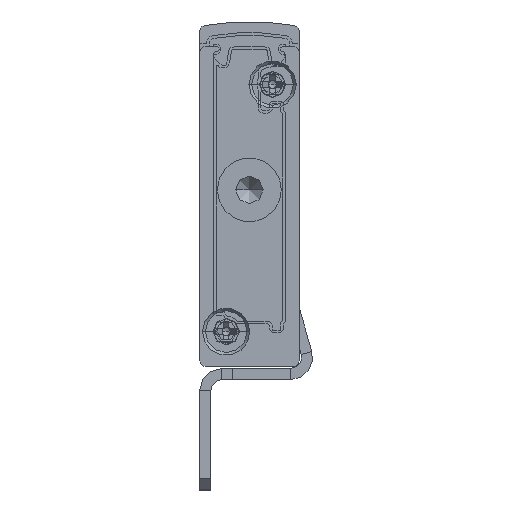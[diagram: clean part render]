
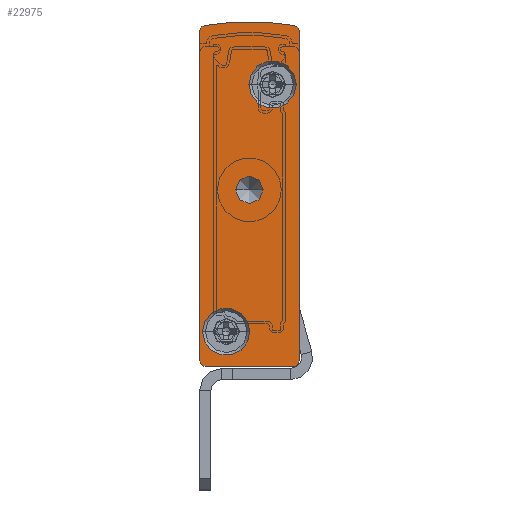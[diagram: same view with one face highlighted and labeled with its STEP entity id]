
A CAD part, front view. The second image highlights one B-rep face of the part: STEP entity #22975.
In plain terms, the highlighted planar face has unit normal (0, -1, 0).
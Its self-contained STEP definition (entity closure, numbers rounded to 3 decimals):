
#132 = VERTEX_POINT ( 'NONE', #21649 ) ;
#720 = VECTOR ( 'NONE', #23392, 1000. ) ;
#1022 = CIRCLE ( 'NONE', #27500, 0.5 ) ;
#1134 = CIRCLE ( 'NONE', #24811, 2.15 ) ;
#2129 = LINE ( 'NONE', #26302, #720 ) ;
#2211 = EDGE_CURVE ( 'NONE', #132, #8752, #6116, .T. ) ;
#2265 = ORIENTED_EDGE ( 'NONE', *, *, #27444, .F. ) ;
#2599 = CIRCLE ( 'NONE', #6572, 2.15 ) ;
#3163 = ORIENTED_EDGE ( 'NONE', *, *, #36997, .F. ) ;
#3201 = DIRECTION ( 'NONE',  ( 0., 1., 0. ) ) ;
#3420 = VERTEX_POINT ( 'NONE', #7451 ) ;
#4333 = DIRECTION ( 'NONE',  ( 0., 1., 0. ) ) ;
#5256 = EDGE_LOOP ( 'NONE', ( #3163, #38874 ) ) ;
#5431 = VERTEX_POINT ( 'NONE', #17715 ) ;
#6116 = LINE ( 'NONE', #7259, #20972 ) ;
#6117 = DIRECTION ( 'NONE',  ( 0., -1., 0. ) ) ;
#6565 = CARTESIAN_POINT ( 'NONE',  ( -4.5, -2.5, 16. ) ) ;
#6572 = AXIS2_PLACEMENT_3D ( 'NONE', #22706, #25849, #37949 ) ;
#6925 = EDGE_CURVE ( 'NONE', #5431, #13040, #23563, .T. ) ;
#7259 = CARTESIAN_POINT ( 'NONE',  ( -8.5, -2.5, 0. ) ) ;
#7374 = DIRECTION ( 'NONE',  ( 0., 1., 0. ) ) ;
#7451 = CARTESIAN_POINT ( 'NONE',  ( -8.75, -2.5, 3.15 ) ) ;
#7817 = VECTOR ( 'NONE', #19695, 1000. ) ;
#7854 = CIRCLE ( 'NONE', #23585, 0.5 ) ;
#7926 = ORIENTED_EDGE ( 'NONE', *, *, #9345, .F. ) ;
#8088 = DIRECTION ( 'NONE',  ( 1., 0., 0. ) ) ;
#8170 = DIRECTION ( 'NONE',  ( -1., 0., 0. ) ) ;
#8428 = CARTESIAN_POINT ( 'NONE',  ( -4.55, -2.5, 25.55 ) ) ;
#8752 = VERTEX_POINT ( 'NONE', #19816 ) ;
#9057 = EDGE_CURVE ( 'NONE', #15988, #11552, #24615, .T. ) ;
#9345 = EDGE_CURVE ( 'NONE', #23113, #35770, #7854, .T. ) ;
#9776 = CARTESIAN_POINT ( 'NONE',  ( -2.4, -2.5, 25.55 ) ) ;
#10322 = CARTESIAN_POINT ( 'NONE',  ( -8.5, -2.5, 30.402 ) ) ;
#10497 = CARTESIAN_POINT ( 'NONE',  ( -4.5, -2.5, 16. ) ) ;
#10714 = EDGE_LOOP ( 'NONE', ( #14036, #11407 ) ) ;
#10790 = ORIENTED_EDGE ( 'NONE', *, *, #31729, .F. ) ;
#10904 = CARTESIAN_POINT ( 'NONE',  ( 0., -2.5, 30.402 ) ) ;
#11131 = CARTESIAN_POINT ( 'NONE',  ( -0.408, -2.5, 30.893 ) ) ;
#11407 = ORIENTED_EDGE ( 'NONE', *, *, #23336, .F. ) ;
#11552 = VERTEX_POINT ( 'NONE', #23332 ) ;
#11938 = CIRCLE ( 'NONE', #27370, 23.658 ) ;
#12266 = FACE_BOUND ( 'NONE', #5256, .T. ) ;
#12992 = DIRECTION ( 'NONE',  ( 0., 1., 0. ) ) ;
#13040 = VERTEX_POINT ( 'NONE', #37254 ) ;
#13219 = AXIS2_PLACEMENT_3D ( 'NONE', #10322, #4333, #25895 ) ;
#13375 = DIRECTION ( 'NONE',  ( -1., 0., 0. ) ) ;
#13417 = PLANE ( 'NONE',  #13219 ) ;
#13498 = DIRECTION ( 'NONE',  ( 0., 1., 0. ) ) ;
#13591 = DIRECTION ( 'NONE',  ( 0., 1., 0. ) ) ;
#13794 = CIRCLE ( 'NONE', #33810, 1.25 ) ;
#13963 = EDGE_CURVE ( 'NONE', #35770, #25927, #21693, .T. ) ;
#14036 = ORIENTED_EDGE ( 'NONE', *, *, #23522, .F. ) ;
#14560 = DIRECTION ( 'NONE',  ( 0., 1., 0. ) ) ;
#14744 = CARTESIAN_POINT ( 'NONE',  ( -9., -2.5, 0.5 ) ) ;
#15130 = FACE_BOUND ( 'NONE', #10714, .T. ) ;
#15229 = CARTESIAN_POINT ( 'NONE',  ( -6.6, -2.5, 3.15 ) ) ;
#15448 = EDGE_CURVE ( 'NONE', #11552, #15988, #13794, .T. ) ;
#15761 = DIRECTION ( 'NONE',  ( 1., 0., 0. ) ) ;
#15918 = CIRCLE ( 'NONE', #28842, 2.15 ) ;
#15988 = VERTEX_POINT ( 'NONE', #19936 ) ;
#16142 = EDGE_CURVE ( 'NONE', #8752, #24034, #33355, .T. ) ;
#16448 = CARTESIAN_POINT ( 'NONE',  ( 0., -2.5, 0.5 ) ) ;
#16474 = DIRECTION ( 'NONE',  ( -1., 0., 0. ) ) ;
#16995 = FACE_OUTER_BOUND ( 'NONE', #31179, .T. ) ;
#17041 = ORIENTED_EDGE ( 'NONE', *, *, #9057, .T. ) ;
#17715 = CARTESIAN_POINT ( 'NONE',  ( -9., -2.5, 30.402 ) ) ;
#17875 = DIRECTION ( 'NONE',  ( -1., 0., 0. ) ) ;
#18296 = CARTESIAN_POINT ( 'NONE',  ( -0.5, -2.5, 30.402 ) ) ;
#18557 = AXIS2_PLACEMENT_3D ( 'NONE', #9776, #21519, #34093 ) ;
#19200 = ORIENTED_EDGE ( 'NONE', *, *, #15448, .T. ) ;
#19695 = DIRECTION ( 'NONE',  ( 0., 0., -1. ) ) ;
#19816 = CARTESIAN_POINT ( 'NONE',  ( -8.5, -2.5, 0. ) ) ;
#19936 = CARTESIAN_POINT ( 'NONE',  ( -3.25, -2.5, 16. ) ) ;
#20133 = VERTEX_POINT ( 'NONE', #38599 ) ;
#20137 = EDGE_CURVE ( 'NONE', #25927, #132, #1022, .T. ) ;
#20248 = DIRECTION ( 'NONE',  ( 0., -1., 0. ) ) ;
#20972 = VECTOR ( 'NONE', #8170, 1000. ) ;
#21519 = DIRECTION ( 'NONE',  ( 0., -1., 0. ) ) ;
#21649 = CARTESIAN_POINT ( 'NONE',  ( -0.5, -2.5, 0. ) ) ;
#21693 = LINE ( 'NONE', #30877, #7817 ) ;
#21702 = CIRCLE ( 'NONE', #18557, 2.15 ) ;
#22049 = ORIENTED_EDGE ( 'NONE', *, *, #2211, .F. ) ;
#22214 = DIRECTION ( 'NONE',  ( 0., 1., 0. ) ) ;
#22346 = CARTESIAN_POINT ( 'NONE',  ( -8.5, -2.5, 30.402 ) ) ;
#22706 = CARTESIAN_POINT ( 'NONE',  ( -2.4, -2.5, 25.55 ) ) ;
#22882 = ORIENTED_EDGE ( 'NONE', *, *, #16142, .F. ) ;
#22975 = ADVANCED_FACE ( 'NONE', ( #15130, #12266, #16995, #31260 ), #13417, .F. ) ;
#23043 = VERTEX_POINT ( 'NONE', #8428 ) ;
#23113 = VERTEX_POINT ( 'NONE', #11131 ) ;
#23290 = ORIENTED_EDGE ( 'NONE', *, *, #13963, .F. ) ;
#23332 = CARTESIAN_POINT ( 'NONE',  ( -5.75, -2.5, 16. ) ) ;
#23336 = EDGE_CURVE ( 'NONE', #23043, #33188, #21702, .T. ) ;
#23392 = DIRECTION ( 'NONE',  ( 0., 0., 1. ) ) ;
#23461 = AXIS2_PLACEMENT_3D ( 'NONE', #22346, #22214, #25649 ) ;
#23522 = EDGE_CURVE ( 'NONE', #33188, #23043, #2599, .T. ) ;
#23563 = CIRCLE ( 'NONE', #23461, 0.5 ) ;
#23585 = AXIS2_PLACEMENT_3D ( 'NONE', #18296, #3201, #39296 ) ;
#23720 = AXIS2_PLACEMENT_3D ( 'NONE', #36892, #13498, #13375 ) ;
#24034 = VERTEX_POINT ( 'NONE', #14744 ) ;
#24337 = AXIS2_PLACEMENT_3D ( 'NONE', #6565, #12992, #34361 ) ;
#24615 = CIRCLE ( 'NONE', #24337, 1.25 ) ;
#24810 = EDGE_CURVE ( 'NONE', #3420, #20133, #1134, .T. ) ;
#24811 = AXIS2_PLACEMENT_3D ( 'NONE', #15229, #6117, #15761 ) ;
#25649 = DIRECTION ( 'NONE',  ( -1., 0., 0. ) ) ;
#25849 = DIRECTION ( 'NONE',  ( 0., -1., 0. ) ) ;
#25895 = DIRECTION ( 'NONE',  ( -1., 0., 0. ) ) ;
#25927 = VERTEX_POINT ( 'NONE', #16448 ) ;
#26062 = CARTESIAN_POINT ( 'NONE',  ( -0.25, -2.5, 25.55 ) ) ;
#26302 = CARTESIAN_POINT ( 'NONE',  ( -9., -2.5, 30.402 ) ) ;
#26485 = CARTESIAN_POINT ( 'NONE',  ( -6.6, -2.5, 3.15 ) ) ;
#27370 = AXIS2_PLACEMENT_3D ( 'NONE', #34516, #7374, #16474 ) ;
#27444 = EDGE_CURVE ( 'NONE', #24034, #5431, #2129, .T. ) ;
#27500 = AXIS2_PLACEMENT_3D ( 'NONE', #29723, #14560, #17875 ) ;
#28842 = AXIS2_PLACEMENT_3D ( 'NONE', #26485, #20248, #8088 ) ;
#29723 = CARTESIAN_POINT ( 'NONE',  ( -0.5, -2.5, 0.5 ) ) ;
#30877 = CARTESIAN_POINT ( 'NONE',  ( 0., -2.5, 30.402 ) ) ;
#31179 = EDGE_LOOP ( 'NONE', ( #35992, #2265, #22882, #22049, #34807, #23290, #7926, #10790 ) ) ;
#31183 = EDGE_LOOP ( 'NONE', ( #19200, #17041 ) ) ;
#31260 = FACE_BOUND ( 'NONE', #31183, .T. ) ;
#31729 = EDGE_CURVE ( 'NONE', #13040, #23113, #11938, .T. ) ;
#32184 = DIRECTION ( 'NONE',  ( -1., 0., 0. ) ) ;
#33188 = VERTEX_POINT ( 'NONE', #26062 ) ;
#33355 = CIRCLE ( 'NONE', #23720, 0.5 ) ;
#33810 = AXIS2_PLACEMENT_3D ( 'NONE', #10497, #13591, #32184 ) ;
#34093 = DIRECTION ( 'NONE',  ( 1., 0., 0. ) ) ;
#34361 = DIRECTION ( 'NONE',  ( -1., 0., 0. ) ) ;
#34516 = CARTESIAN_POINT ( 'NONE',  ( -4.5, -2.5, 7.592 ) ) ;
#34807 = ORIENTED_EDGE ( 'NONE', *, *, #20137, .F. ) ;
#35770 = VERTEX_POINT ( 'NONE', #10904 ) ;
#35992 = ORIENTED_EDGE ( 'NONE', *, *, #6925, .F. ) ;
#36892 = CARTESIAN_POINT ( 'NONE',  ( -8.5, -2.5, 0.5 ) ) ;
#36997 = EDGE_CURVE ( 'NONE', #20133, #3420, #15918, .T. ) ;
#37254 = CARTESIAN_POINT ( 'NONE',  ( -8.592, -2.5, 30.893 ) ) ;
#37949 = DIRECTION ( 'NONE',  ( 1., 0., 0. ) ) ;
#38599 = CARTESIAN_POINT ( 'NONE',  ( -4.45, -2.5, 3.15 ) ) ;
#38874 = ORIENTED_EDGE ( 'NONE', *, *, #24810, .F. ) ;
#39296 = DIRECTION ( 'NONE',  ( -1., 0., 0. ) ) ;
